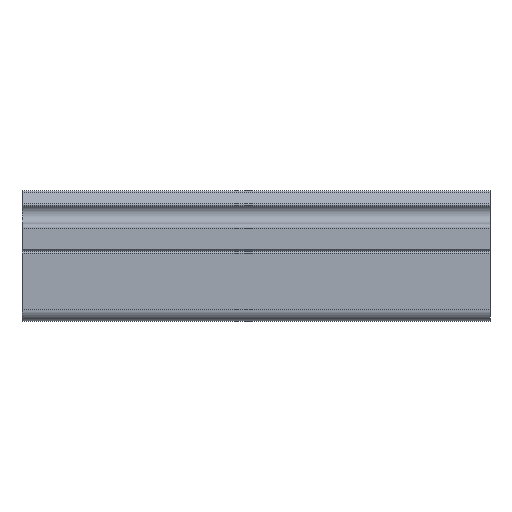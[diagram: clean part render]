
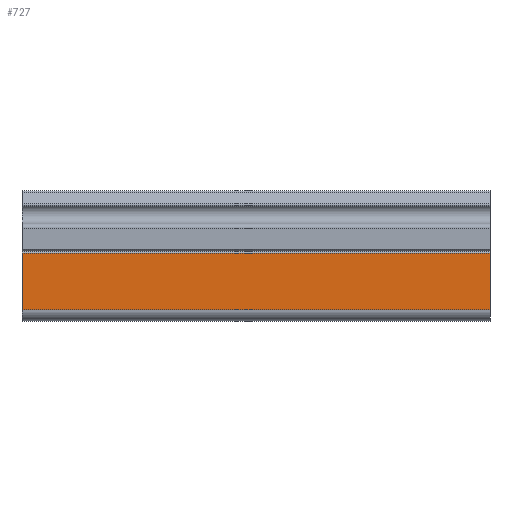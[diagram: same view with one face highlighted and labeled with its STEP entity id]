
A CAD part, front view. The second image highlights one B-rep face of the part: STEP entity #727.
In plain terms, the highlighted planar face has unit normal (0, -1, -0.018).
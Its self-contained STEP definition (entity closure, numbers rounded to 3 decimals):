
#59 = CARTESIAN_POINT ( 'NONE',  ( 50., -14.965, 2.456 ) ) ;
#85 = VECTOR ( 'NONE', #1587, 1000. ) ;
#100 = CARTESIAN_POINT ( 'NONE',  ( -50., -15.176, 14.521 ) ) ;
#155 = DIRECTION ( 'NONE',  ( 0., -0.017, 1. ) ) ;
#156 = EDGE_CURVE ( 'NONE', #2237, #1026, #1544, .T. ) ;
#262 = DIRECTION ( 'NONE',  ( -1., 0., 0. ) ) ;
#326 = PLANE ( 'NONE',  #478 ) ;
#372 = VECTOR ( 'NONE', #262, 1000. ) ;
#398 = CARTESIAN_POINT ( 'NONE',  ( 50., -14.965, 2.456 ) ) ;
#476 = CARTESIAN_POINT ( 'NONE',  ( 50., -15.176, 14.521 ) ) ;
#478 = AXIS2_PLACEMENT_3D ( 'NONE', #1469, #1293, #155 ) ;
#542 = VECTOR ( 'NONE', #1426, 1000. ) ;
#609 = LINE ( 'NONE', #59, #372 ) ;
#614 = EDGE_CURVE ( 'NONE', #2237, #1207, #1830, .T. ) ;
#727 = ADVANCED_FACE ( 'NONE', ( #1104 ), #326, .F. ) ;
#1000 = CARTESIAN_POINT ( 'NONE',  ( 50., -15.176, 14.521 ) ) ;
#1026 = VERTEX_POINT ( 'NONE', #1183 ) ;
#1104 = FACE_OUTER_BOUND ( 'NONE', #1423, .T. ) ;
#1129 = CARTESIAN_POINT ( 'NONE',  ( -50., -14.965, 2.456 ) ) ;
#1139 = LINE ( 'NONE', #100, #542 ) ;
#1183 = CARTESIAN_POINT ( 'NONE',  ( -50., -15.176, 14.521 ) ) ;
#1207 = VERTEX_POINT ( 'NONE', #398 ) ;
#1227 = VECTOR ( 'NONE', #2418, 1000. ) ;
#1293 = DIRECTION ( 'NONE',  ( 0., 1., 0.017 ) ) ;
#1423 = EDGE_LOOP ( 'NONE', ( #2093, #2126, #1931, #1762 ) ) ;
#1426 = DIRECTION ( 'NONE',  ( 0., 0.017, -1. ) ) ;
#1440 = VERTEX_POINT ( 'NONE', #1129 ) ;
#1465 = CARTESIAN_POINT ( 'NONE',  ( 50., -15.176, 14.521 ) ) ;
#1469 = CARTESIAN_POINT ( 'NONE',  ( 50., -15.176, 14.521 ) ) ;
#1544 = LINE ( 'NONE', #1000, #85 ) ;
#1587 = DIRECTION ( 'NONE',  ( -1., 0., 0. ) ) ;
#1762 = ORIENTED_EDGE ( 'NONE', *, *, #156, .T. ) ;
#1830 = LINE ( 'NONE', #476, #1227 ) ;
#1848 = EDGE_CURVE ( 'NONE', #1207, #1440, #609, .T. ) ;
#1931 = ORIENTED_EDGE ( 'NONE', *, *, #614, .F. ) ;
#2093 = ORIENTED_EDGE ( 'NONE', *, *, #2340, .T. ) ;
#2126 = ORIENTED_EDGE ( 'NONE', *, *, #1848, .F. ) ;
#2237 = VERTEX_POINT ( 'NONE', #1465 ) ;
#2340 = EDGE_CURVE ( 'NONE', #1026, #1440, #1139, .T. ) ;
#2418 = DIRECTION ( 'NONE',  ( 0., 0.017, -1. ) ) ;
